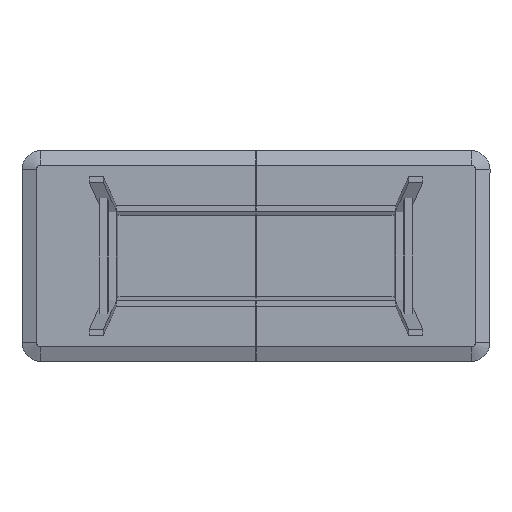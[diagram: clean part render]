
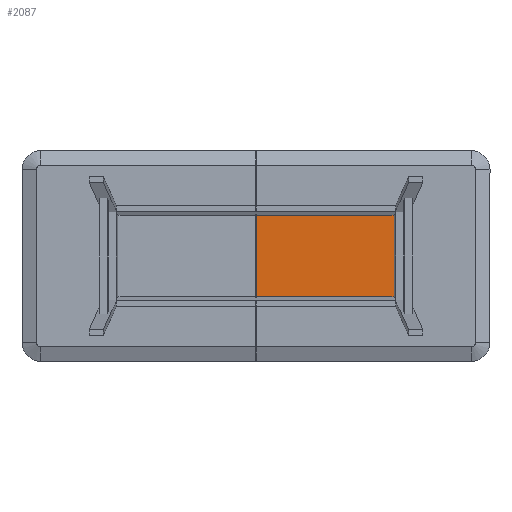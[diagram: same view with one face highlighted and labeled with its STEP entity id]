
A CAD part, front view. The second image highlights one B-rep face of the part: STEP entity #2087.
In plain terms, the highlighted planar face has unit normal (0, -1, 0).
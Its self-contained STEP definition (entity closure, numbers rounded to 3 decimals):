
#221 = CARTESIAN_POINT ( 'NONE',  ( 0.707, 720., -388.123 ) ) ;
#385 = CARTESIAN_POINT ( 'NONE',  ( 589.771, 720., 283.186 ) ) ;
#388 = CARTESIAN_POINT ( 'NONE',  ( 589.771, 720., 174.532 ) ) ;
#456 = LINE ( 'NONE', #385, #1548 ) ;
#589 = AXIS2_PLACEMENT_3D ( 'NONE', #1154, #888, #1357 ) ;
#862 = VECTOR ( 'NONE', #1321, 1000. ) ;
#888 = DIRECTION ( 'NONE',  ( 0., -1., 0. ) ) ;
#948 = VERTEX_POINT ( 'NONE', #1719 ) ;
#1140 = VERTEX_POINT ( 'NONE', #1698 ) ;
#1154 = CARTESIAN_POINT ( 'NONE',  ( 920., 720., -370. ) ) ;
#1196 = CARTESIAN_POINT ( 'NONE',  ( 0.707, 720., -174.532 ) ) ;
#1321 = DIRECTION ( 'NONE',  ( 0., 0., -1. ) ) ;
#1357 = DIRECTION ( 'NONE',  ( 0., 0., 1. ) ) ;
#1373 = FACE_OUTER_BOUND ( 'NONE', #3410, .T. ) ;
#1541 = VERTEX_POINT ( 'NONE', #1196 ) ;
#1548 = VECTOR ( 'NONE', #3446, 1000. ) ;
#1679 = PLANE ( 'NONE',  #589 ) ;
#1698 = CARTESIAN_POINT ( 'NONE',  ( 589.771, 720., -174.532 ) ) ;
#1719 = CARTESIAN_POINT ( 'NONE',  ( 0.707, 720., 174.532 ) ) ;
#1777 = ORIENTED_EDGE ( 'NONE', *, *, #2568, .T. ) ;
#1896 = ORIENTED_EDGE ( 'NONE', *, *, #2736, .F. ) ;
#2005 = VECTOR ( 'NONE', #3560, 1000. ) ;
#2027 = DIRECTION ( 'NONE',  ( -1., 0., 0. ) ) ;
#2087 = ADVANCED_FACE ( 'Defeatured_0_5', ( #1373 ), #1679, .T. ) ;
#2185 = CARTESIAN_POINT ( 'NONE',  ( 800., 720., -174.532 ) ) ;
#2200 = VERTEX_POINT ( 'NONE', #388 ) ;
#2536 = EDGE_CURVE ( 'Defeatured_0_114+Defeatured_0_5+Defeatured_0_103+Defeatured_0_109', #2200, #1140, #456, .T. ) ;
#2568 = EDGE_CURVE ( 'Defeatured_0_5+Defeatured_0_85+Defeatured_0_114+Defeatured_0_27', #2200, #948, #3191, .T. ) ;
#2573 = VECTOR ( 'NONE', #2027, 1000. ) ;
#2637 = ORIENTED_EDGE ( 'NONE', *, *, #2536, .F. ) ;
#2688 = LINE ( 'NONE', #221, #862 ) ;
#2736 = EDGE_CURVE ( 'Defeatured_0_69+Defeatured_0_5+Defeatured_0_72+Defeatured_0_76', #1140, #1541, #3268, .T. ) ;
#2798 = EDGE_CURVE ( 'Defeatured_0_5+Defeatured_0_27+Defeatured_0_85+Defeatured_0_69', #948, #1541, #2688, .T. ) ;
#2944 = ORIENTED_EDGE ( 'NONE', *, *, #2798, .T. ) ;
#3191 = LINE ( 'NONE', #3429, #2573 ) ;
#3268 = LINE ( 'NONE', #2185, #2005 ) ;
#3410 = EDGE_LOOP ( 'NONE', ( #2637, #1777, #2944, #1896 ) ) ;
#3429 = CARTESIAN_POINT ( 'NONE',  ( 800., 720., 174.532 ) ) ;
#3446 = DIRECTION ( 'NONE',  ( 0., 0., -1. ) ) ;
#3560 = DIRECTION ( 'NONE',  ( -1., 0., 0. ) ) ;
